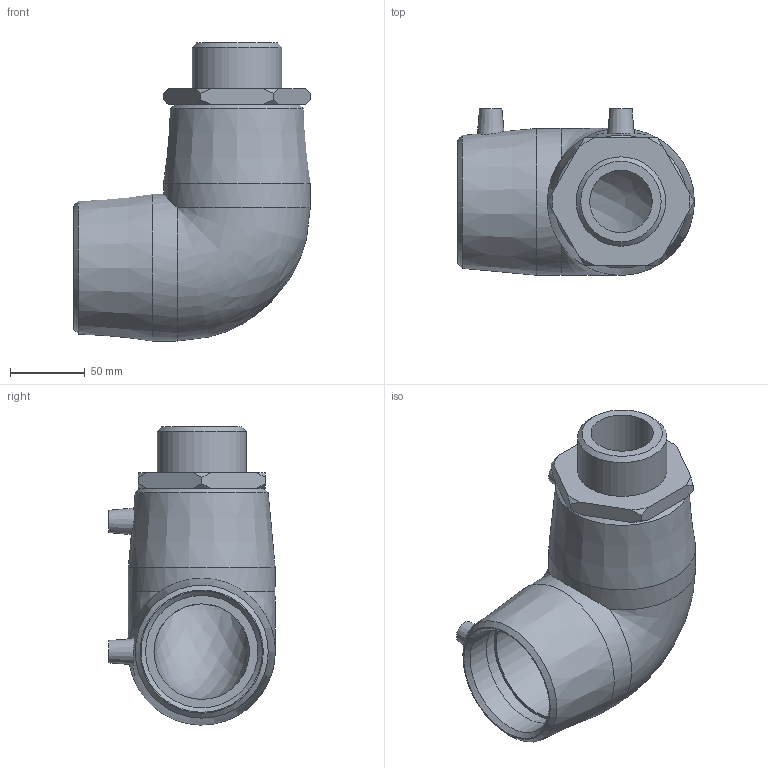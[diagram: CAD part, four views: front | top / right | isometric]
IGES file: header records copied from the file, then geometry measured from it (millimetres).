
Global section: file name: 492504075020.ipt; native system: Autodesk Inventor 2015; preprocessor: unknown; author: KIM; date: 20200202.122356; units: millimetre
Bounding box: 158 x 111 x 199 mm (x, y, z)
Volume: 833860.8 mm3; surface area: 135752.7 mm2
Topology: 1 solids, 2 shells, 59 faces, 143 edges, 96 vertices
Faces by surface type: plane 22, cone 19, revolution 10, cylinder 7, bspline 1
Full cylindrical faces by diameter (mm): 4 x2, 59.614 x1, 75 x2, 98 x2
